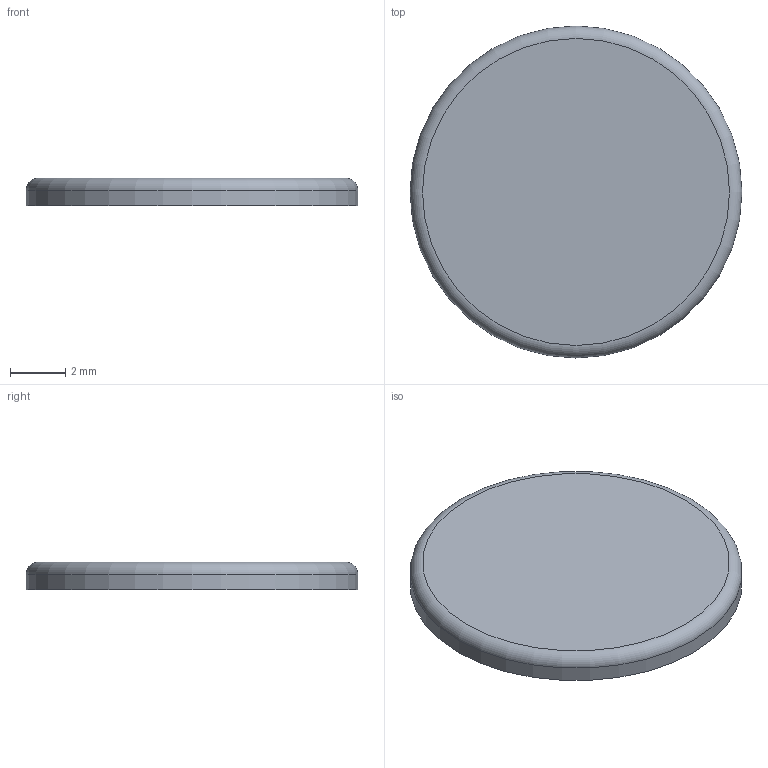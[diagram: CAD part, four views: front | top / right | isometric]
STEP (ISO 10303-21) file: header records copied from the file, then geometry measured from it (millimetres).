
FILE_DESCRIPTION(('Open CASCADE Model'),'2;1');
FILE_NAME('Open CASCADE Shape Model','2026-10-04T21:33:04',('Author'),( 'Open CASCADE'),'Open CASCADE STEP processor 7.9','Open CASCADE 7.9' ,'Unknown');
FILE_SCHEMA(('AUTOMOTIVE_DESIGN { 1 0 10303 214 1 1 1 1 }'));
Length unit declared in the file: millimetre
Products named in the file (1): Open CASCADE STEP translator 7.9 4
Bounding box: 12 x 12 x 1 mm (x, y, z)
Volume: 111.5 mm3; surface area: 256.5 mm2
Topology: 1 solids, 1 shells, 4 faces, 5 edges, 3 vertices
Faces by surface type: plane 2, cylinder 1, torus 1
Full cylindrical faces by diameter (mm): 12 x1
Entity records: 158 total; most frequent: DIRECTION 27, CARTESIAN_POINT 25, ORIENTED_EDGE 10, PCURVE 10, DEFINITIONAL_REPRESENTATION 10, AXIS2_PLACEMENT_3D 9, LINE 7, VECTOR 7
